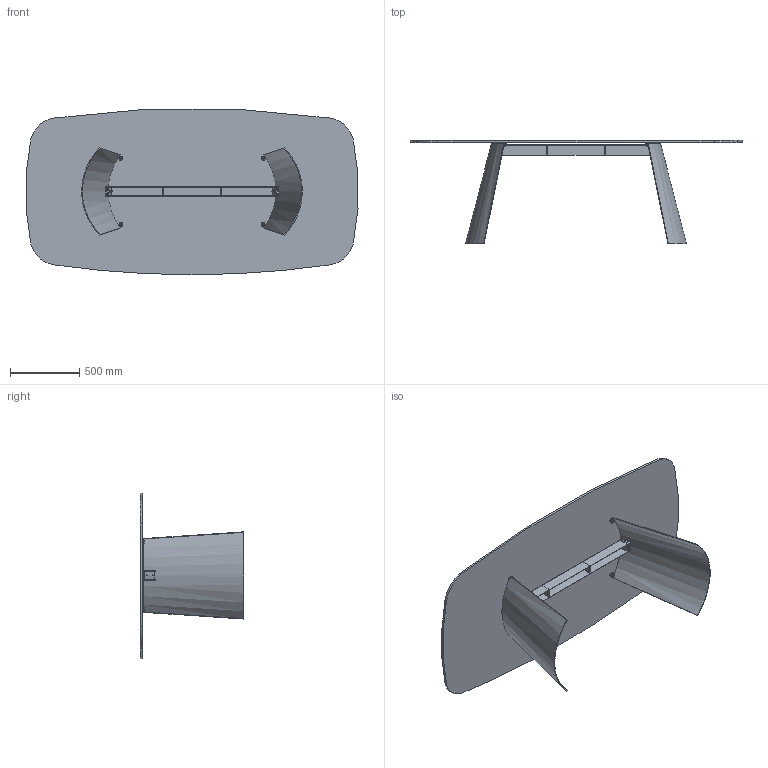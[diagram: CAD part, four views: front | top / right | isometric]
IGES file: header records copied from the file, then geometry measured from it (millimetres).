
Start section: SolidWorks IGES file using analytic representation for surfaces
Global section: file name: Y:\eforma\TECNICO\SOLIDWORKS\E-FORMA\1-TAVOLI\DORIAN\02 parts-rev 01\DN43G.IGS; native system: SolidWorks 2022; preprocessor: SolidWorks 2022; author: eforma.tech; date: 240807.171009; units: millimetre
Bounding box: 2391.62 x 745 x 1192.03 mm (x, y, z)
Volume: 45566798.6 mm3; surface area: 7949500.2 mm2
Topology: 46 solids, 46 shells, 583 faces, 1345 edges, 854 vertices
Faces by surface type: revolution 317, plane 248, bspline 18
